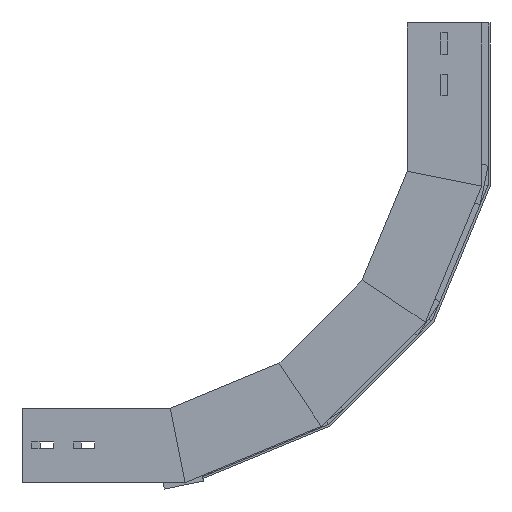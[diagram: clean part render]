
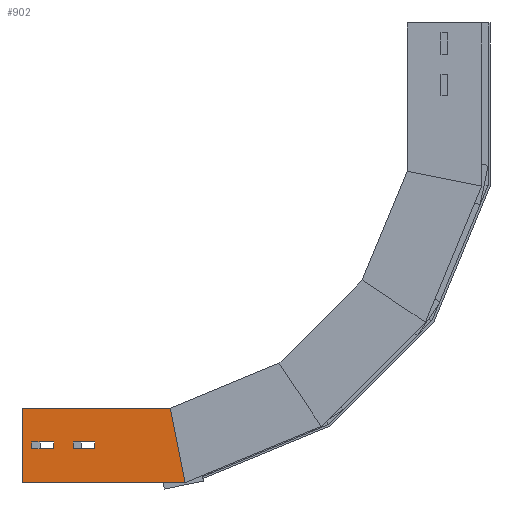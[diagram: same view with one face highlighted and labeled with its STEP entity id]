
A CAD part, left-side view. The second image highlights one B-rep face of the part: STEP entity #902.
In plain terms, the highlighted planar face has unit normal (-1, 0, 0) as drawn and (1, 0, 0) by its records, which use the part's own axes.
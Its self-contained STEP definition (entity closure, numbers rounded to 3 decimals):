
#12 = VECTOR ( 'NONE', #898, 1000. ) ;
#22 = EDGE_LOOP ( 'NONE', ( #492, #452, #511, #1231 ) ) ;
#26 = EDGE_CURVE ( 'NONE', #1742, #329, #40, .T. ) ;
#40 = LINE ( 'NONE', #917, #1360 ) ;
#50 = CARTESIAN_POINT ( 'NONE',  ( 0., 75., -149.682 ) ) ;
#65 = VECTOR ( 'NONE', #889, 1000. ) ;
#66 = VECTOR ( 'NONE', #1503, 1000. ) ;
#99 = LINE ( 'NONE', #549, #855 ) ;
#190 = LINE ( 'NONE', #946, #1363 ) ;
#196 = VERTEX_POINT ( 'NONE', #1389 ) ;
#257 = DIRECTION ( 'NONE',  ( 0., 0., 1. ) ) ;
#297 = CARTESIAN_POINT ( 'NONE',  ( 0., 0., -164.6 ) ) ;
#306 = LINE ( 'NONE', #1031, #12 ) ;
#322 = CARTESIAN_POINT ( 'NONE',  ( 0., 41., -51.505 ) ) ;
#329 = VERTEX_POINT ( 'NONE', #761 ) ;
#332 = VERTEX_POINT ( 'NONE', #50 ) ;
#333 = DIRECTION ( 'NONE',  ( 0., 1., 0. ) ) ;
#372 = EDGE_CURVE ( 'NONE', #744, #977, #1505, .T. ) ;
#391 = ORIENTED_EDGE ( 'NONE', *, *, #1155, .T. ) ;
#450 = CARTESIAN_POINT ( 'NONE',  ( 0., 75., 0. ) ) ;
#452 = ORIENTED_EDGE ( 'NONE', *, *, #693, .T. ) ;
#489 = LINE ( 'NONE', #612, #1574 ) ;
#492 = ORIENTED_EDGE ( 'NONE', *, *, #873, .T. ) ;
#494 = ORIENTED_EDGE ( 'NONE', *, *, #372, .T. ) ;
#511 = ORIENTED_EDGE ( 'NONE', *, *, #1770, .T. ) ;
#520 = FACE_BOUND ( 'NONE', #1069, .T. ) ;
#528 = FACE_BOUND ( 'NONE', #22, .T. ) ;
#539 = CARTESIAN_POINT ( 'NONE',  ( 0., 41., -31.835 ) ) ;
#543 = DIRECTION ( 'NONE',  ( 0., -0.981, -0.195 ) ) ;
#549 = CARTESIAN_POINT ( 'NONE',  ( 0., 41., -31.835 ) ) ;
#579 = EDGE_CURVE ( 'NONE', #1636, #196, #990, .T. ) ;
#612 = CARTESIAN_POINT ( 'NONE',  ( 0., 34., -9.835 ) ) ;
#649 = DIRECTION ( 'NONE',  ( 0., 0., -1. ) ) ;
#674 = CARTESIAN_POINT ( 'NONE',  ( 0., 41., -73.505 ) ) ;
#693 = EDGE_CURVE ( 'NONE', #1548, #908, #1443, .T. ) ;
#708 = LINE ( 'NONE', #1429, #1673 ) ;
#721 = VERTEX_POINT ( 'NONE', #297 ) ;
#741 = CARTESIAN_POINT ( 'NONE',  ( 0., 41., -9.835 ) ) ;
#744 = VERTEX_POINT ( 'NONE', #1473 ) ;
#751 = ORIENTED_EDGE ( 'NONE', *, *, #1374, .T. ) ;
#761 = CARTESIAN_POINT ( 'NONE',  ( 0., 75., 0. ) ) ;
#775 = LINE ( 'NONE', #450, #66 ) ;
#855 = VECTOR ( 'NONE', #1877, 1000. ) ;
#873 = EDGE_CURVE ( 'NONE', #1226, #1548, #1219, .T. ) ;
#881 = EDGE_CURVE ( 'NONE', #883, #1226, #489, .T. ) ;
#883 = VERTEX_POINT ( 'NONE', #1787 ) ;
#889 = DIRECTION ( 'NONE',  ( 0., 0., -1. ) ) ;
#898 = DIRECTION ( 'NONE',  ( 0., -1., 0. ) ) ;
#902 = ADVANCED_FACE ( 'NONE', ( #520, #1263, #528 ), #1009, .F. ) ;
#908 = VERTEX_POINT ( 'NONE', #539 ) ;
#917 = CARTESIAN_POINT ( 'NONE',  ( 0., 0., 0. ) ) ;
#930 = DIRECTION ( 'NONE',  ( 0., 0., 1. ) ) ;
#946 = CARTESIAN_POINT ( 'NONE',  ( 0., 41., -51.505 ) ) ;
#977 = VERTEX_POINT ( 'NONE', #674 ) ;
#986 = DIRECTION ( 'NONE',  ( -1., 0., 0. ) ) ;
#990 = LINE ( 'NONE', #1890, #1361 ) ;
#1009 = PLANE ( 'NONE',  #1885 ) ;
#1031 = CARTESIAN_POINT ( 'NONE',  ( 0., 41., -73.505 ) ) ;
#1035 = VECTOR ( 'NONE', #1665, 1000. ) ;
#1069 = EDGE_LOOP ( 'NONE', ( #751, #494, #391, #1251 ) ) ;
#1123 = LINE ( 'NONE', #1677, #1035 ) ;
#1155 = EDGE_CURVE ( 'NONE', #977, #1636, #306, .T. ) ;
#1219 = LINE ( 'NONE', #1807, #1330 ) ;
#1226 = VERTEX_POINT ( 'NONE', #1322 ) ;
#1231 = ORIENTED_EDGE ( 'NONE', *, *, #881, .T. ) ;
#1249 = EDGE_CURVE ( 'NONE', #329, #332, #775, .T. ) ;
#1251 = ORIENTED_EDGE ( 'NONE', *, *, #579, .T. ) ;
#1263 = FACE_OUTER_BOUND ( 'NONE', #1628, .T. ) ;
#1322 = CARTESIAN_POINT ( 'NONE',  ( 0., 34., -9.835 ) ) ;
#1330 = VECTOR ( 'NONE', #333, 1000. ) ;
#1360 = VECTOR ( 'NONE', #1494, 1000. ) ;
#1361 = VECTOR ( 'NONE', #1589, 1000. ) ;
#1363 = VECTOR ( 'NONE', #1832, 1000. ) ;
#1374 = EDGE_CURVE ( 'NONE', #196, #744, #190, .T. ) ;
#1389 = CARTESIAN_POINT ( 'NONE',  ( 0., 34., -51.505 ) ) ;
#1414 = CARTESIAN_POINT ( 'NONE',  ( 0., 34., -73.505 ) ) ;
#1429 = CARTESIAN_POINT ( 'NONE',  ( 0., 31.495, -158.335 ) ) ;
#1433 = CARTESIAN_POINT ( 'NONE',  ( 0., 0., 0. ) ) ;
#1443 = LINE ( 'NONE', #741, #65 ) ;
#1457 = EDGE_CURVE ( 'NONE', #1742, #721, #1123, .T. ) ;
#1459 = ORIENTED_EDGE ( 'NONE', *, *, #1249, .F. ) ;
#1473 = CARTESIAN_POINT ( 'NONE',  ( 0., 41., -51.505 ) ) ;
#1494 = DIRECTION ( 'NONE',  ( 0., 1., 0. ) ) ;
#1500 = EDGE_CURVE ( 'NONE', #332, #721, #708, .T. ) ;
#1503 = DIRECTION ( 'NONE',  ( 0., 0., -1. ) ) ;
#1505 = LINE ( 'NONE', #322, #1694 ) ;
#1548 = VERTEX_POINT ( 'NONE', #1640 ) ;
#1559 = CARTESIAN_POINT ( 'NONE',  ( 0., 0., 0. ) ) ;
#1574 = VECTOR ( 'NONE', #930, 1000. ) ;
#1578 = ORIENTED_EDGE ( 'NONE', *, *, #26, .F. ) ;
#1589 = DIRECTION ( 'NONE',  ( 0., 0., 1. ) ) ;
#1628 = EDGE_LOOP ( 'NONE', ( #1459, #1578, #1688, #1689 ) ) ;
#1636 = VERTEX_POINT ( 'NONE', #1414 ) ;
#1640 = CARTESIAN_POINT ( 'NONE',  ( 0., 41., -9.835 ) ) ;
#1665 = DIRECTION ( 'NONE',  ( 0., 0., -1. ) ) ;
#1673 = VECTOR ( 'NONE', #543, 1000. ) ;
#1677 = CARTESIAN_POINT ( 'NONE',  ( 0., 0., 0. ) ) ;
#1688 = ORIENTED_EDGE ( 'NONE', *, *, #1457, .T. ) ;
#1689 = ORIENTED_EDGE ( 'NONE', *, *, #1500, .F. ) ;
#1694 = VECTOR ( 'NONE', #649, 1000. ) ;
#1742 = VERTEX_POINT ( 'NONE', #1559 ) ;
#1770 = EDGE_CURVE ( 'NONE', #908, #883, #99, .T. ) ;
#1787 = CARTESIAN_POINT ( 'NONE',  ( 0., 34., -31.835 ) ) ;
#1807 = CARTESIAN_POINT ( 'NONE',  ( 0., 41., -9.835 ) ) ;
#1832 = DIRECTION ( 'NONE',  ( 0., 1., 0. ) ) ;
#1877 = DIRECTION ( 'NONE',  ( 0., -1., 0. ) ) ;
#1885 = AXIS2_PLACEMENT_3D ( 'NONE', #1433, #986, #257 ) ;
#1890 = CARTESIAN_POINT ( 'NONE',  ( 0., 34., -51.505 ) ) ;
